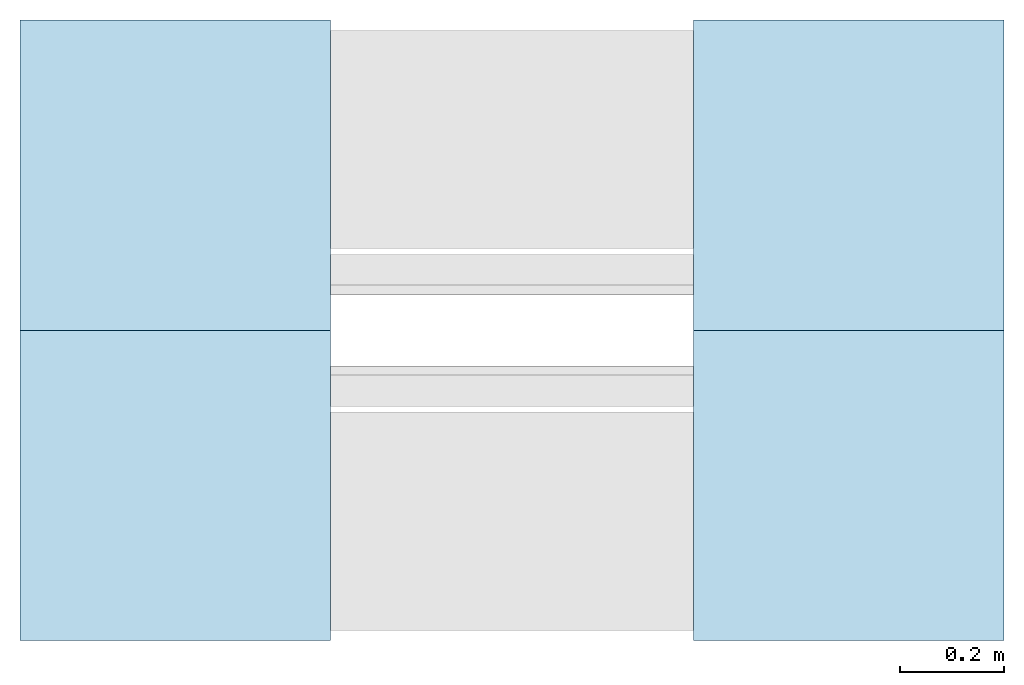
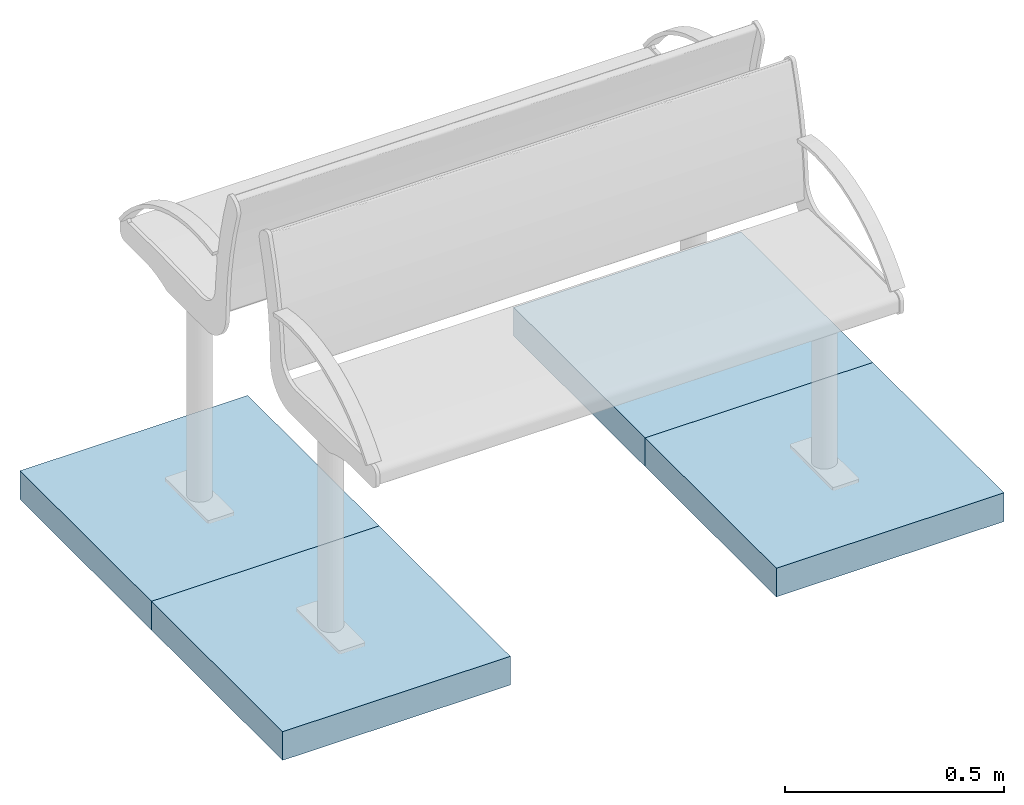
# One storey, incomplete: 4 slabs.
"""IFC4 building model written with IfcOpenShell, lengths in metres."""

import ifcopenshell
import ifcopenshell.guid

model = None  # the IFC model being written
_history = None  # IfcOwnerHistory: only IFC2X3 demands one
_inside = {}  # id of a spatial element -> (the spatial element, [elements in it])
_under = {}  # id of a project, library or spatial element -> (it, [spatial elements below it])
_declared = {}  # id of a project -> (the project, [libraries it declares])
_typed = {}  # id of a type object -> (the type object, [elements of that type])
_made_of = {}  # id of a material, layer set ... -> (it, [elements and type objects made of it])


def new_model(schema):
    """Start an empty IFC model of exactly this schema.

    Asked for "IFC4X3", IfcOpenShell would pick the latest addendum, in which some entities
    have other attributes; the version numbers below select the first issue.
    IFC2X3 requires an IfcOwnerHistory on every rooted entity: one is made here for all.
    """
    global model, _history
    if schema == "IFC4X3":
        model = ifcopenshell.file(schema_version=(4, 3, 0, 0))
    else:
        model = ifcopenshell.file(schema=schema)
    _inside.clear()
    _under.clear()
    _declared.clear()
    _typed.clear()
    _made_of.clear()
    _history = None
    if model.schema == "IFC2X3":
        org = make("IfcOrganization", Name="unknown")
        user = make(
            "IfcPersonAndOrganization",
            ThePerson=make("IfcPerson", FamilyName="unknown"),
            TheOrganization=org,
        )
        app = make(
            "IfcApplication",
            ApplicationDeveloper=org,
            Version="unknown",
            ApplicationFullName="unknown",
            ApplicationIdentifier="unknown",
        )
        _history = make(
            "IfcOwnerHistory",
            OwningUser=user,
            OwningApplication=app,
            ChangeAction="ADDED",
            CreationDate=0,
        )
    return model


def make(cls, **values):
    """One entity of the class cls with the attributes given. An attribute that is None is left unset."""
    return model.create_entity(
        cls, **{name: value for name, value in values.items() if value is not None}
    )


def entity(cls, *values):
    """Any entity or typed value of the class cls, its attributes in the order of the schema. None: left unset."""
    e = model.create_entity(cls)
    for i, value in enumerate(values):
        if value is not None:
            e[i] = value
    return e


def rooted(cls, **values):
    """An entity with a GlobalId (a new one), such as an element, a storey or a relation."""
    return make(cls, GlobalId=ifcopenshell.guid.new(), OwnerHistory=_history, **values)


def si_unit(unit_type, name, prefix=None):
    """IfcSIUnit, for example si_unit("LENGTHUNIT", "METRE", prefix="MILLI")."""
    return make("IfcSIUnit", UnitType=unit_type, Prefix=prefix, Name=name)


def converted_unit(unit_type, name, factor, base, dimensions=None, offset=None):
    """IfcConversionBasedUnit, such as the inch: factor (a typed value) times the base unit."""
    return make(
        "IfcConversionBasedUnit"
        if offset is None
        else "IfcConversionBasedUnitWithOffset",
        ConversionOffset=offset,
        Dimensions=None
        if dimensions is None
        else entity("IfcDimensionalExponents", *dimensions),
        UnitType=unit_type,
        Name=name,
        ConversionFactor=make(
            "IfcMeasureWithUnit", ValueComponent=factor, UnitComponent=base
        ),
    )


def assignment(units):
    """IfcUnitAssignment: the units of a project."""
    return None if units is None else make("IfcUnitAssignment", Units=units)


def point(xyz):
    """IfcCartesianPoint."""
    return None if xyz is None else make("IfcCartesianPoint", Coordinates=xyz)


def direction(xyz):
    """IfcDirection."""
    return None if xyz is None else make("IfcDirection", DirectionRatios=xyz)


def frame(location, z_axis=None, x_axis=None):
    """IfcAxis2Placement3D, a coordinate frame: its origin and axes. An axis left out is left unset."""
    return make(
        "IfcAxis2Placement3D",
        Location=point(location),
        Axis=direction(z_axis),
        RefDirection=direction(x_axis),
    )


def frame_2d(location, x_axis=None):
    """IfcAxis2Placement2D, a coordinate frame in the plane: its origin and x axis."""
    return make(
        "IfcAxis2Placement2D", Location=point(location), RefDirection=direction(x_axis)
    )


def origin():
    """The frame at (0, 0, 0) with its axes left unset."""
    return frame((0.0, 0.0, 0.0))


def place(relative_to, where):
    """IfcLocalPlacement: puts the frame where relative to a parent placement (None: the world)."""
    return make(
        "IfcLocalPlacement", PlacementRelTo=relative_to, RelativePlacement=where
    )


def context(
    kind, dimensions, precision=None, world=None, true_north=None, identifier=None
):
    """IfcGeometricRepresentationContext, for example the 3D "Model" context."""
    return make(
        "IfcGeometricRepresentationContext",
        ContextIdentifier=identifier,
        ContextType=kind,
        CoordinateSpaceDimension=dimensions,
        Precision=precision,
        WorldCoordinateSystem=world,
        TrueNorth=true_north,
    )


def subcontext(parent, identifier, kind, view, scale=None):
    """IfcGeometricRepresentationSubContext, for example "Body" below "Model"."""
    return make(
        "IfcGeometricRepresentationSubContext",
        ContextIdentifier=identifier,
        ContextType=kind,
        ParentContext=parent,
        TargetScale=scale,
        TargetView=view,
    )


def project(units=None, contexts=None):
    """IfcProject with its units and contexts."""
    return rooted(
        "IfcProject",
        Name="project",
        RepresentationContexts=contexts,
        UnitsInContext=assignment(units),
    )


def spatial(cls, under=None, at=None, **own):
    """A site, building, storey or space (cls), placed at a placement, below another one or the project."""
    s = rooted(cls, ObjectPlacement=at, **own)
    if under is not None:
        _under.setdefault(under.id(), (under, []))[1].append(s)
    return s


def profile(cls, at=None, kind="AREA", **sizes):
    """A parametric profile (cls). Its sizes go by their IFC names, for example OverallWidth=200.0."""
    return make(cls, ProfileType=kind, Position=at, **sizes)


def rectangle(**sizes):
    """IfcRectangleProfileDef."""
    return profile("IfcRectangleProfileDef", **sizes)


def extrude(swept, where, along, depth):
    """IfcExtrudedAreaSolid: the profile swept, set in the frame where, extruded along a direction by depth."""
    return make(
        "IfcExtrudedAreaSolid",
        SweptArea=swept,
        Position=where,
        ExtrudedDirection=direction(along),
        Depth=depth,
    )


def shape(context_of_items, identifier, shape_type, items):
    """IfcShapeRepresentation: the items that make up one representation, for example the "Body"."""
    return make(
        "IfcShapeRepresentation",
        ContextOfItems=context_of_items,
        RepresentationIdentifier=identifier,
        RepresentationType=shape_type,
        Items=items,
    )


def material(Name=None, Category=None):
    """IfcMaterial."""
    return make("IfcMaterial", Name=Name, Category=Category)


def made_of(thing, what):
    """Note that an element or type object is made of a material, layer set ...; save() writes the relation."""
    if what is not None:
        _made_of.setdefault(what.id(), (what, []))[1].append(thing)
    return thing


def type_object(cls, material=None, **own):
    """A type object (cls), such as IfcWallType, which elements share."""
    return made_of(rooted(cls, **own), material)


def element(
    cls,
    number,
    at=None,
    inside=None,
    cuts=None,
    type_object=None,
    material=None,
    context=None,
    identifier="Body",
    shape_type=None,
    held_by="IfcProductDefinitionShape",
    body=None,
    shapes=None,
    **own,
):
    """One element of the class cls, such as IfcWall. Its Tag is "e" and its number.

    at: its placement. inside: the storey or other place that contains it. cuts: it is an
    opening in that element (IfcRelVoidsElement). A single representation is given by context,
    identifier, shape_type and body (its items); several are given by shapes. held_by: the class
    of the entity that holds the representations. save() writes the other relations.
    """
    e = rooted(cls, Tag="e%d" % number, ObjectPlacement=at, **own)
    if body is not None:
        shapes = [shape(context, identifier, shape_type, body)]
    if shapes is not None:
        e.Representation = make(held_by, Representations=shapes)
    if inside is not None:
        _inside.setdefault(inside.id(), (inside, []))[1].append(e)
    if cuts is not None:
        rooted(
            "IfcRelVoidsElement", RelatingBuildingElement=cuts, RelatedOpeningElement=e
        )
    if type_object is not None:
        _typed.setdefault(type_object.id(), (type_object, []))[1].append(e)
    return made_of(e, material)


def aggregate(whole, parts):
    """IfcRelAggregates: a whole, such as a stair, and the parts it consists of."""
    return rooted("IfcRelAggregates", RelatingObject=whole, RelatedObjects=parts)


def save(model, path):
    """Write the relations noted so far, then the file.

    IfcRelAggregates (storeys below a building ...), IfcRelContainedInSpatialStructure (elements
    in a storey), IfcRelDefinesByType, IfcRelAssociatesMaterial and IfcRelDeclares: one each for
    every whole, place, type object, material and project.
    """
    for whole, parts in _under.values():
        aggregate(whole, parts)
    for where, things in _inside.values():
        rooted(
            "IfcRelContainedInSpatialStructure",
            RelatedElements=things,
            RelatingStructure=where,
        )
    for kind, things in _typed.values():
        rooted("IfcRelDefinesByType", RelatedObjects=things, RelatingType=kind)
    for what, things in _made_of.values():
        rooted("IfcRelAssociatesMaterial", RelatedObjects=things, RelatingMaterial=what)
    for by, libraries in _declared.values():
        rooted("IfcRelDeclares", RelatingContext=by, RelatedDefinitions=libraries)
    model.write(path)


model = new_model("IFC4")

# Units and contexts
model_context = context("Model", 3, precision=1e-05, world=origin(), true_north=direction((6.123031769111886e-17, 1.0)))
body_context = subcontext(model_context, "Body", "Model", "MODEL_VIEW")
ifc_project = project(units=[si_unit("LENGTHUNIT", "METRE"), converted_unit("PLANEANGLEUNIT", "DEGREE", entity("IfcPlaneAngleMeasure", 0.017453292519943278), si_unit("PLANEANGLEUNIT", "RADIAN"), dimensions=[0, 0, 0, 0, 0, 0, 0]), si_unit("AREAUNIT", "SQUARE_METRE")], contexts=[model_context])

# Site, building, storey
site_placement = place(None, origin())
site = spatial("IfcSite", under=ifc_project, at=site_placement, Name="Default", CompositionType="ELEMENT")
building_placement = place(site_placement, origin())
building = spatial("IfcBuilding", under=site, at=building_placement, CompositionType="ELEMENT")
storey_placement = place(building_placement, origin())
storey = spatial("IfcBuildingStorey", under=building, at=storey_placement, Name="DB_Bezugshoehe_max_Bahnsteigkante", CompositionType="ELEMENT", Elevation=0.0)

# Slabs
ifc_material = material(Name="DB_Fertigbeton", Category="DB_Beton")
slab_type = type_object("IfcSlabType", Name="DB_Sitzbank_Fundament:DB_Sitzbank_Fundament", PredefinedType="BASESLAB", material=ifc_material)
slab_1_placement = place(storey_placement, origin())
element("IfcSlab", 1, at=slab_1_placement, inside=storey, type_object=slab_type, Name="DB_Sitzbank_Fundament:DB_Sitzbank_Fundament", ObjectType="DB_Sitzbank_Fundament:DB_Sitzbank_Fundament", PredefinedType="BASESLAB", context=body_context, shape_type="SweptSolid", body=[
    extrude(rectangle(XDim=0.5999999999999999, YDim=0.5999999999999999, at=frame_2d((0.0, 8.326672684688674e-17), x_axis=(1.0, 0.0))), frame((0.6504999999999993, 0.29949718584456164, -0.25), z_axis=(0.0, 0.0, 1.0), x_axis=(0.0, 1.0, 0.0)), (0.0, 0.0, 1.0), 0.08000000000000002),
])
slab_2_placement = place(storey_placement, origin())
element("IfcSlab", 2, at=slab_2_placement, inside=storey, type_object=slab_type, Name="DB_Sitzbank_Fundament:DB_Sitzbank_Fundament", ObjectType="DB_Sitzbank_Fundament:DB_Sitzbank_Fundament", PredefinedType="BASESLAB", context=body_context, shape_type="SweptSolid", body=[
    extrude(rectangle(XDim=0.5989943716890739, YDim=0.5999999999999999, at=frame_2d((0.0, 8.326672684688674e-17), x_axis=(1.0, 0.0))), frame((0.6504999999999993, -0.29999999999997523, -0.2500000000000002), z_axis=(0.0, 0.0, 1.0), x_axis=(0.0, 1.0, 0.0)), (0.0, 0.0, 1.0), 0.08000000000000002),
])
slab_3_placement = place(storey_placement, origin())
element("IfcSlab", 3, at=slab_3_placement, inside=storey, type_object=slab_type, Name="DB_Sitzbank_Fundament:DB_Sitzbank_Fundament", ObjectType="DB_Sitzbank_Fundament:DB_Sitzbank_Fundament", PredefinedType="BASESLAB", context=body_context, shape_type="SweptSolid", body=[
    extrude(rectangle(XDim=0.5999999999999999, YDim=0.5999999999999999, at=frame_2d((0.0, 8.326672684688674e-17), x_axis=(1.0, 0.0))), frame((-0.6505000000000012, 0.2995028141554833, -0.25), z_axis=(0.0, 0.0, 1.0), x_axis=(0.0, 1.0, 0.0)), (0.0, 0.0, 1.0), 0.08000000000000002),
])
slab_4_placement = place(storey_placement, origin())
element("IfcSlab", 4, at=slab_4_placement, inside=storey, type_object=slab_type, Name="DB_Sitzbank_Fundament:DB_Sitzbank_Fundament", ObjectType="DB_Sitzbank_Fundament:DB_Sitzbank_Fundament", PredefinedType="BASESLAB", context=body_context, shape_type="SweptSolid", body=[
    extrude(rectangle(XDim=0.5990056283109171, YDim=0.5999999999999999, at=frame_2d((0.0, 8.326672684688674e-17), x_axis=(1.0, 0.0))), frame((-0.6505000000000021, -0.29999999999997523, -0.25), z_axis=(0.0, 0.0, 1.0), x_axis=(0.0, 1.0, 0.0)), (0.0, 0.0, 1.0), 0.08000000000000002),
])

save(model, "model.ifc")
